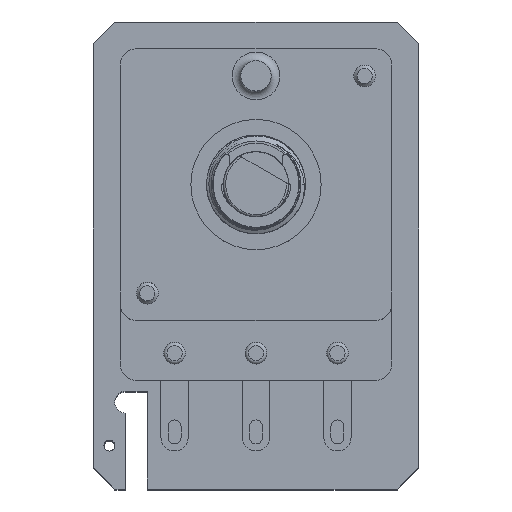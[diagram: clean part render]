
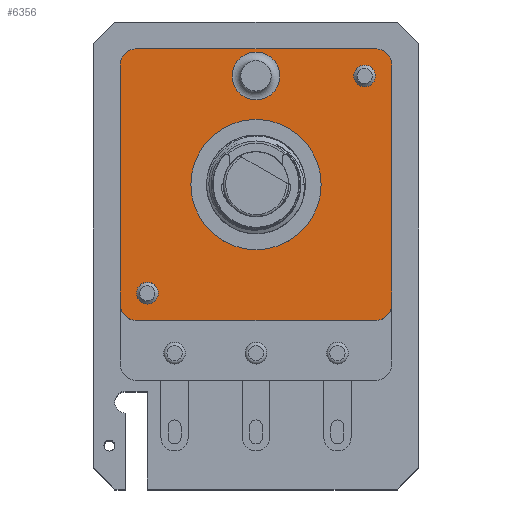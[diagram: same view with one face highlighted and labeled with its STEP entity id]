
A CAD part, top view. The second image highlights one B-rep face of the part: STEP entity #6356.
In plain terms, the highlighted planar face has unit normal (0, 0, 1).
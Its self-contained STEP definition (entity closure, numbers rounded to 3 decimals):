
#6335 = EDGE_CURVE('',#6336,#6336,#6338,.T.);
#6336 = VERTEX_POINT('',#6337);
#6337 = CARTESIAN_POINT('',(6.,0.,-1.));
#6338 = CIRCLE('',#6339,6.);
#6339 = AXIS2_PLACEMENT_3D('',#6340,#6341,#6342);
#6340 = CARTESIAN_POINT('',(0.,0.,-1.));
#6341 = DIRECTION('',(0.,0.,1.));
#6342 = DIRECTION('',(1.,0.,-0.));
#6356 = ADVANCED_FACE('',(#6357,#6427,#6438,#6441,#6452),#6463,.T.);
#6357 = FACE_BOUND('',#6358,.T.);
#6358 = EDGE_LOOP('',(#6359,#6369,#6378,#6386,#6395,#6403,#6412,#6420));
#6359 = ORIENTED_EDGE('',*,*,#6360,.F.);
#6360 = EDGE_CURVE('',#6361,#6363,#6365,.T.);
#6361 = VERTEX_POINT('',#6362);
#6362 = CARTESIAN_POINT('',(-12.5,-11.,-1.));
#6363 = VERTEX_POINT('',#6364);
#6364 = CARTESIAN_POINT('',(-12.5,11.,-1.));
#6365 = LINE('',#6366,#6367);
#6366 = CARTESIAN_POINT('',(-12.5,-12.5,-1.));
#6367 = VECTOR('',#6368,1.);
#6368 = DIRECTION('',(0.,1.,0.));
#6369 = ORIENTED_EDGE('',*,*,#6370,.T.);
#6370 = EDGE_CURVE('',#6361,#6371,#6373,.T.);
#6371 = VERTEX_POINT('',#6372);
#6372 = CARTESIAN_POINT('',(-11.,-12.5,-1.));
#6373 = CIRCLE('',#6374,1.5);
#6374 = AXIS2_PLACEMENT_3D('',#6375,#6376,#6377);
#6375 = CARTESIAN_POINT('',(-11.,-11.,-1.));
#6376 = DIRECTION('',(-0.,0.,1.));
#6377 = DIRECTION('',(0.,-1.,0.));
#6378 = ORIENTED_EDGE('',*,*,#6379,.T.);
#6379 = EDGE_CURVE('',#6371,#6380,#6382,.T.);
#6380 = VERTEX_POINT('',#6381);
#6381 = CARTESIAN_POINT('',(11.,-12.5,-1.));
#6382 = LINE('',#6383,#6384);
#6383 = CARTESIAN_POINT('',(-12.5,-12.5,-1.));
#6384 = VECTOR('',#6385,1.);
#6385 = DIRECTION('',(1.,0.,0.));
#6386 = ORIENTED_EDGE('',*,*,#6387,.T.);
#6387 = EDGE_CURVE('',#6380,#6388,#6390,.T.);
#6388 = VERTEX_POINT('',#6389);
#6389 = CARTESIAN_POINT('',(12.5,-11.,-1.));
#6390 = CIRCLE('',#6391,1.5);
#6391 = AXIS2_PLACEMENT_3D('',#6392,#6393,#6394);
#6392 = CARTESIAN_POINT('',(11.,-11.,-1.));
#6393 = DIRECTION('',(-0.,0.,1.));
#6394 = DIRECTION('',(0.,-1.,0.));
#6395 = ORIENTED_EDGE('',*,*,#6396,.T.);
#6396 = EDGE_CURVE('',#6388,#6397,#6399,.T.);
#6397 = VERTEX_POINT('',#6398);
#6398 = CARTESIAN_POINT('',(12.5,11.,-1.));
#6399 = LINE('',#6400,#6401);
#6400 = CARTESIAN_POINT('',(12.5,-12.5,-1.));
#6401 = VECTOR('',#6402,1.);
#6402 = DIRECTION('',(0.,1.,0.));
#6403 = ORIENTED_EDGE('',*,*,#6404,.F.);
#6404 = EDGE_CURVE('',#6405,#6397,#6407,.T.);
#6405 = VERTEX_POINT('',#6406);
#6406 = CARTESIAN_POINT('',(11.,12.5,-1.));
#6407 = CIRCLE('',#6408,1.5);
#6408 = AXIS2_PLACEMENT_3D('',#6409,#6410,#6411);
#6409 = CARTESIAN_POINT('',(11.,11.,-1.));
#6410 = DIRECTION('',(-0.,-0.,-1.));
#6411 = DIRECTION('',(0.,-1.,0.));
#6412 = ORIENTED_EDGE('',*,*,#6413,.F.);
#6413 = EDGE_CURVE('',#6414,#6405,#6416,.T.);
#6414 = VERTEX_POINT('',#6415);
#6415 = CARTESIAN_POINT('',(-11.,12.5,-1.));
#6416 = LINE('',#6417,#6418);
#6417 = CARTESIAN_POINT('',(-12.5,12.5,-1.));
#6418 = VECTOR('',#6419,1.);
#6419 = DIRECTION('',(1.,0.,0.));
#6420 = ORIENTED_EDGE('',*,*,#6421,.F.);
#6421 = EDGE_CURVE('',#6363,#6414,#6422,.T.);
#6422 = CIRCLE('',#6423,1.5);
#6423 = AXIS2_PLACEMENT_3D('',#6424,#6425,#6426);
#6424 = CARTESIAN_POINT('',(-11.,11.,-1.));
#6425 = DIRECTION('',(-0.,-0.,-1.));
#6426 = DIRECTION('',(0.,-1.,0.));
#6427 = FACE_BOUND('',#6428,.T.);
#6428 = EDGE_LOOP('',(#6429));
#6429 = ORIENTED_EDGE('',*,*,#6430,.T.);
#6430 = EDGE_CURVE('',#6431,#6431,#6433,.T.);
#6431 = VERTEX_POINT('',#6432);
#6432 = CARTESIAN_POINT('',(-9.,-10.,-1.));
#6433 = CIRCLE('',#6434,1.);
#6434 = AXIS2_PLACEMENT_3D('',#6435,#6436,#6437);
#6435 = CARTESIAN_POINT('',(-10.,-10.,-1.));
#6436 = DIRECTION('',(0.,0.,-1.));
#6437 = DIRECTION('',(1.,0.,0.));
#6438 = FACE_BOUND('',#6439,.T.);
#6439 = EDGE_LOOP('',(#6440));
#6440 = ORIENTED_EDGE('',*,*,#6335,.F.);
#6441 = FACE_BOUND('',#6442,.T.);
#6442 = EDGE_LOOP('',(#6443));
#6443 = ORIENTED_EDGE('',*,*,#6444,.F.);
#6444 = EDGE_CURVE('',#6445,#6445,#6447,.T.);
#6445 = VERTEX_POINT('',#6446);
#6446 = CARTESIAN_POINT('',(2.2,10.,-1.));
#6447 = CIRCLE('',#6448,2.2);
#6448 = AXIS2_PLACEMENT_3D('',#6449,#6450,#6451);
#6449 = CARTESIAN_POINT('',(0.,10.,-1.));
#6450 = DIRECTION('',(0.,0.,1.));
#6451 = DIRECTION('',(1.,0.,-0.));
#6452 = FACE_BOUND('',#6453,.T.);
#6453 = EDGE_LOOP('',(#6454));
#6454 = ORIENTED_EDGE('',*,*,#6455,.T.);
#6455 = EDGE_CURVE('',#6456,#6456,#6458,.T.);
#6456 = VERTEX_POINT('',#6457);
#6457 = CARTESIAN_POINT('',(11.,10.,-1.));
#6458 = CIRCLE('',#6459,1.);
#6459 = AXIS2_PLACEMENT_3D('',#6460,#6461,#6462);
#6460 = CARTESIAN_POINT('',(10.,10.,-1.));
#6461 = DIRECTION('',(0.,0.,-1.));
#6462 = DIRECTION('',(1.,0.,0.));
#6463 = PLANE('',#6464);
#6464 = AXIS2_PLACEMENT_3D('',#6465,#6466,#6467);
#6465 = CARTESIAN_POINT('',(-12.5,-12.5,-1.));
#6466 = DIRECTION('',(0.,0.,1.));
#6467 = DIRECTION('',(1.,0.,-0.));
